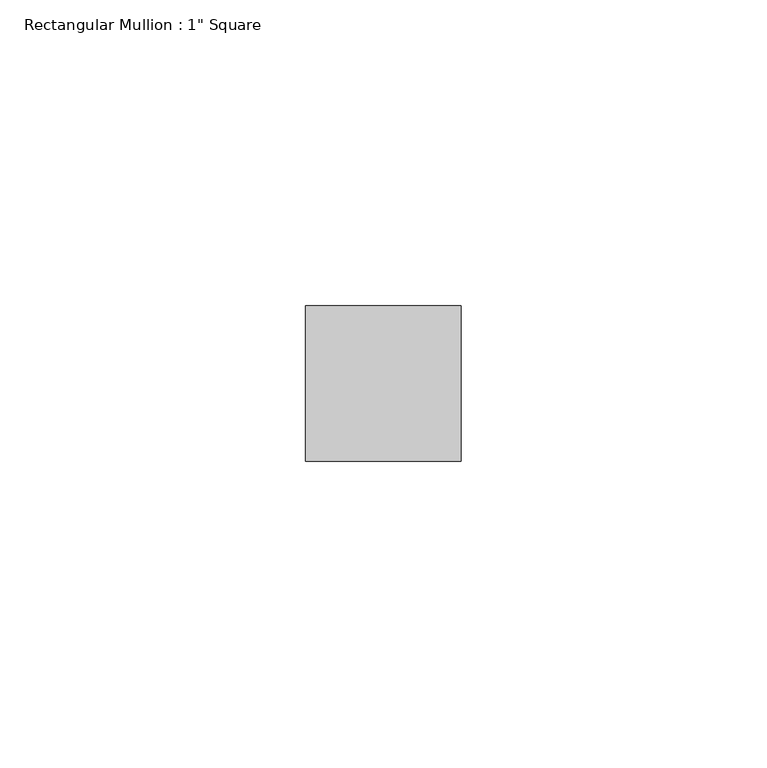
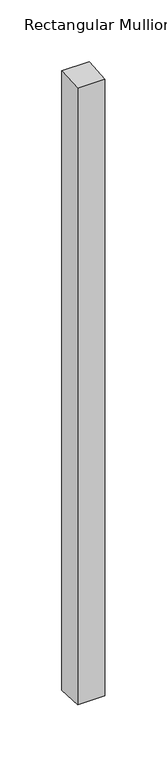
"""IFC4 building model written with IfcOpenShell, lengths in millimetres: member geometry."""

from ifc_helpers import new_model, si_unit, origin, place, context, project, spatial, faceted_brep, source, transform, mapped, element, save


def member_2c27c1a6(model_context):
    return source(origin(), model_context, "Body", "Brep", [
        faceted_brep([(-25.4, 12.7, 0.7170829), (0.0, 12.7, 0.758459), (0.0, 12.7, -610.358459), (-25.4, 12.7, -610.3170829), (-25.4, -12.7, -0.7998352), (-25.4, -12.7, -608.8001648), (0.0, -12.7, -0.758459), (0.0, -12.7, -608.841541)], [[[0, 1, 2, 3]], [[4, 0, 3, 5]], [[6, 4, 5, 7]], [[1, 6, 7, 2]], [[1, 0, 4, 6]], [[2, 7, 5, 3]]]),
    ])


if __name__ == "__main__":
    model = new_model("IFC4")
    model_context = context("Model", 3, world=origin())
    ifc_project = project(units=[si_unit("LENGTHUNIT", "METRE", prefix="MILLI")], contexts=[model_context])
    site = spatial("IfcSite", under=ifc_project)
    building = spatial("IfcBuilding", under=site)
    placement = place(None, origin())
    member_shape = member_2c27c1a6(model_context)
    element("IfcMember", 1, ObjectType="Rectangular Mullion : 1\" Square", at=placement, inside=building, context=model_context, shape_type="MappedRepresentation", body=[
        mapped(member_shape, transform((0.0, 0.0, 0.0), x_axis=(1.0, 0.0, 0.0), y_axis=(0.0, 1.0, 0.0), z_axis=(0.0, 0.0, 1.0))),
    ])
    save(model, "model.ifc")
